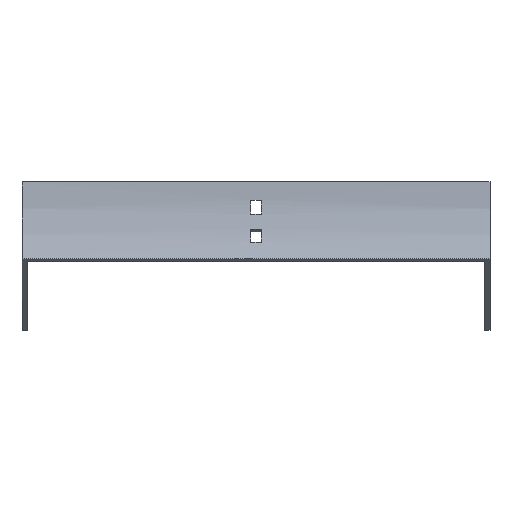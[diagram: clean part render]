
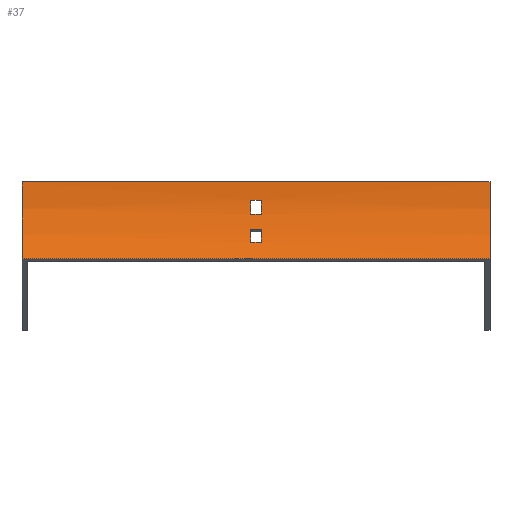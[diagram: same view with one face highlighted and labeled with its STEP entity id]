
A CAD part, front view. The second image highlights one B-rep face of the part: STEP entity #37.
In plain terms, the highlighted cylindrical face has radius 100 mm (diameter 200 mm), a partial arc.
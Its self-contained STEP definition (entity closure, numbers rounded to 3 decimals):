
#8 = LINE ( 'NONE', #361, #1553 ) ;
#37 = ADVANCED_FACE ( 'NONE', ( #268, #1311, #1039 ), #378, .F. ) ;
#43 = EDGE_CURVE ( 'NONE', #332, #1129, #8, .T. ) ;
#58 = CARTESIAN_POINT ( 'NONE',  ( 152., 0., 0. ) ) ;
#71 = ORIENTED_EDGE ( 'NONE', *, *, #1557, .F. ) ;
#78 = CARTESIAN_POINT ( 'NONE',  ( -152., -100., 0. ) ) ;
#94 = DIRECTION ( 'NONE',  ( 0., 0., 1. ) ) ;
#117 = DIRECTION ( 'NONE',  ( -1., 0., 0. ) ) ;
#122 = EDGE_CURVE ( 'NONE', #845, #1379, #144, .T. ) ;
#129 = DIRECTION ( 'NONE',  ( 0., 0., -1. ) ) ;
#140 = CARTESIAN_POINT ( 'NONE',  ( 3.25, -100., 0. ) ) ;
#144 = LINE ( 'NONE', #1210, #438 ) ;
#196 = VERTEX_POINT ( 'NONE', #756 ) ;
#261 = DIRECTION ( 'NONE',  ( 1., 0., 0. ) ) ;
#268 = FACE_OUTER_BOUND ( 'NONE', #874, .T. ) ;
#289 = ORIENTED_EDGE ( 'NONE', *, *, #707, .T. ) ;
#303 = CARTESIAN_POINT ( 'NONE',  ( 152., -13.397, -50. ) ) ;
#312 = ORIENTED_EDGE ( 'NONE', *, *, #1514, .F. ) ;
#332 = VERTEX_POINT ( 'NONE', #597 ) ;
#361 = CARTESIAN_POINT ( 'NONE',  ( 152., -2.23, -21. ) ) ;
#364 = VECTOR ( 'NONE', #542, 1000. ) ;
#367 = LINE ( 'NONE', #526, #985 ) ;
#378 = CYLINDRICAL_SURFACE ( 'NONE', #1028, 100. ) ;
#384 = VECTOR ( 'NONE', #1490, 1000. ) ;
#404 = DIRECTION ( 'NONE',  ( 0., 0., 1. ) ) ;
#407 = DIRECTION ( 'NONE',  ( -1., 0., 0. ) ) ;
#429 = CARTESIAN_POINT ( 'NONE',  ( -3.25, -100., 0. ) ) ;
#438 = VECTOR ( 'NONE', #261, 1000. ) ;
#441 = AXIS2_PLACEMENT_3D ( 'NONE', #140, #672, #404 ) ;
#451 = VERTEX_POINT ( 'NONE', #1600 ) ;
#463 = ORIENTED_EDGE ( 'NONE', *, *, #1023, .T. ) ;
#478 = EDGE_LOOP ( 'NONE', ( #1663, #546, #71, #1124 ) ) ;
#505 = DIRECTION ( 'NONE',  ( -1., 0., 0. ) ) ;
#526 = CARTESIAN_POINT ( 'NONE',  ( 152., -13.397, -50. ) ) ;
#542 = DIRECTION ( 'NONE',  ( 1., 0., 0. ) ) ;
#546 = ORIENTED_EDGE ( 'NONE', *, *, #1540, .F. ) ;
#558 = CIRCLE ( 'NONE', #869, 100. ) ;
#596 = CIRCLE ( 'NONE', #1563, 100. ) ;
#597 = CARTESIAN_POINT ( 'NONE',  ( 3.25, -2.23, -21. ) ) ;
#630 = CARTESIAN_POINT ( 'NONE',  ( -3.25, -2.23, -21. ) ) ;
#672 = DIRECTION ( 'NONE',  ( 1., 0., 0. ) ) ;
#695 = CIRCLE ( 'NONE', #1058, 100. ) ;
#698 = CARTESIAN_POINT ( 'NONE',  ( -3.25, -8.023, -39.246 ) ) ;
#699 = LINE ( 'NONE', #960, #384 ) ;
#707 = EDGE_CURVE ( 'NONE', #1284, #1505, #695, .T. ) ;
#718 = CARTESIAN_POINT ( 'NONE',  ( -3.25, -4.829, -30.699 ) ) ;
#756 = CARTESIAN_POINT ( 'NONE',  ( 3.25, -4.829, -30.699 ) ) ;
#770 = CARTESIAN_POINT ( 'NONE',  ( -152., -13.397, -50. ) ) ;
#829 = CARTESIAN_POINT ( 'NONE',  ( -3.25, -100., 0. ) ) ;
#831 = DIRECTION ( 'NONE',  ( 0., 0., 1. ) ) ;
#834 = EDGE_CURVE ( 'NONE', #1129, #1542, #558, .T. ) ;
#839 = DIRECTION ( 'NONE',  ( 0., 0., 1. ) ) ;
#845 = VERTEX_POINT ( 'NONE', #698 ) ;
#846 = DIRECTION ( 'NONE',  ( -1., 0., 0. ) ) ;
#869 = AXIS2_PLACEMENT_3D ( 'NONE', #829, #1501, #839 ) ;
#874 = EDGE_LOOP ( 'NONE', ( #289, #312, #1510, #463 ) ) ;
#880 = ORIENTED_EDGE ( 'NONE', *, *, #43, .T. ) ;
#887 = EDGE_LOOP ( 'NONE', ( #880, #1365, #1684, #1281 ) ) ;
#923 = AXIS2_PLACEMENT_3D ( 'NONE', #429, #967, #1347 ) ;
#960 = CARTESIAN_POINT ( 'NONE',  ( 152., -4.829, -30.699 ) ) ;
#967 = DIRECTION ( 'NONE',  ( -1., 0., 0. ) ) ;
#974 = VERTEX_POINT ( 'NONE', #718 ) ;
#979 = CIRCLE ( 'NONE', #1533, 100. ) ;
#985 = VECTOR ( 'NONE', #117, 1000. ) ;
#991 = LINE ( 'NONE', #58, #1178 ) ;
#1023 = EDGE_CURVE ( 'NONE', #451, #1284, #991, .T. ) ;
#1028 = AXIS2_PLACEMENT_3D ( 'NONE', #1060, #505, #1045 ) ;
#1036 = CARTESIAN_POINT ( 'NONE',  ( 3.25, -0.723, -12. ) ) ;
#1039 = FACE_BOUND ( 'NONE', #478, .T. ) ;
#1045 = DIRECTION ( 'NONE',  ( 0., 0., 1. ) ) ;
#1058 = AXIS2_PLACEMENT_3D ( 'NONE', #78, #846, #94 ) ;
#1060 = CARTESIAN_POINT ( 'NONE',  ( 152., -100., 0. ) ) ;
#1124 = ORIENTED_EDGE ( 'NONE', *, *, #122, .F. ) ;
#1129 = VERTEX_POINT ( 'NONE', #630 ) ;
#1139 = EDGE_CURVE ( 'NONE', #1542, #1397, #1628, .T. ) ;
#1174 = DIRECTION ( 'NONE',  ( -1., 0., 0. ) ) ;
#1178 = VECTOR ( 'NONE', #1661, 1000. ) ;
#1198 = CIRCLE ( 'NONE', #441, 100. ) ;
#1206 = EDGE_CURVE ( 'NONE', #974, #845, #1442, .T. ) ;
#1210 = CARTESIAN_POINT ( 'NONE',  ( 152., -8.023, -39.246 ) ) ;
#1232 = CARTESIAN_POINT ( 'NONE',  ( -3.25, -0.723, -12. ) ) ;
#1270 = CARTESIAN_POINT ( 'NONE',  ( -152., 0., 0. ) ) ;
#1281 = ORIENTED_EDGE ( 'NONE', *, *, #1503, .T. ) ;
#1284 = VERTEX_POINT ( 'NONE', #1270 ) ;
#1294 = CARTESIAN_POINT ( 'NONE',  ( 3.25, -8.023, -39.246 ) ) ;
#1311 = FACE_BOUND ( 'NONE', #887, .T. ) ;
#1318 = CARTESIAN_POINT ( 'NONE',  ( 3.25, -100., 0. ) ) ;
#1322 = DIRECTION ( 'NONE',  ( -1., 0., 0. ) ) ;
#1347 = DIRECTION ( 'NONE',  ( 0., 0., -1. ) ) ;
#1365 = ORIENTED_EDGE ( 'NONE', *, *, #834, .T. ) ;
#1379 = VERTEX_POINT ( 'NONE', #1294 ) ;
#1397 = VERTEX_POINT ( 'NONE', #1036 ) ;
#1442 = CIRCLE ( 'NONE', #923, 100. ) ;
#1450 = CARTESIAN_POINT ( 'NONE',  ( 152., -0.723, -12. ) ) ;
#1451 = EDGE_CURVE ( 'NONE', #451, #1461, #979, .T. ) ;
#1461 = VERTEX_POINT ( 'NONE', #303 ) ;
#1484 = CARTESIAN_POINT ( 'NONE',  ( 152., -100., 0. ) ) ;
#1490 = DIRECTION ( 'NONE',  ( -1., 0., 0. ) ) ;
#1501 = DIRECTION ( 'NONE',  ( 1., 0., 0. ) ) ;
#1503 = EDGE_CURVE ( 'NONE', #1397, #332, #596, .T. ) ;
#1505 = VERTEX_POINT ( 'NONE', #770 ) ;
#1510 = ORIENTED_EDGE ( 'NONE', *, *, #1451, .F. ) ;
#1514 = EDGE_CURVE ( 'NONE', #1461, #1505, #367, .T. ) ;
#1533 = AXIS2_PLACEMENT_3D ( 'NONE', #1484, #407, #831 ) ;
#1540 = EDGE_CURVE ( 'NONE', #196, #974, #699, .T. ) ;
#1542 = VERTEX_POINT ( 'NONE', #1232 ) ;
#1553 = VECTOR ( 'NONE', #1322, 1000. ) ;
#1557 = EDGE_CURVE ( 'NONE', #1379, #196, #1198, .T. ) ;
#1563 = AXIS2_PLACEMENT_3D ( 'NONE', #1318, #1174, #129 ) ;
#1600 = CARTESIAN_POINT ( 'NONE',  ( 152., 0., 0. ) ) ;
#1628 = LINE ( 'NONE', #1450, #364 ) ;
#1661 = DIRECTION ( 'NONE',  ( -1., 0., 0. ) ) ;
#1663 = ORIENTED_EDGE ( 'NONE', *, *, #1206, .F. ) ;
#1684 = ORIENTED_EDGE ( 'NONE', *, *, #1139, .T. ) ;
